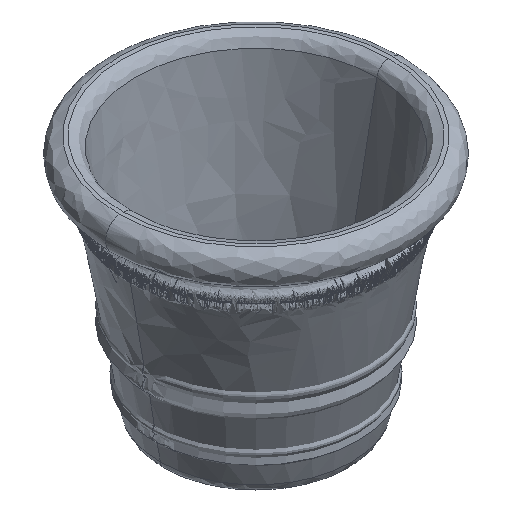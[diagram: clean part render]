
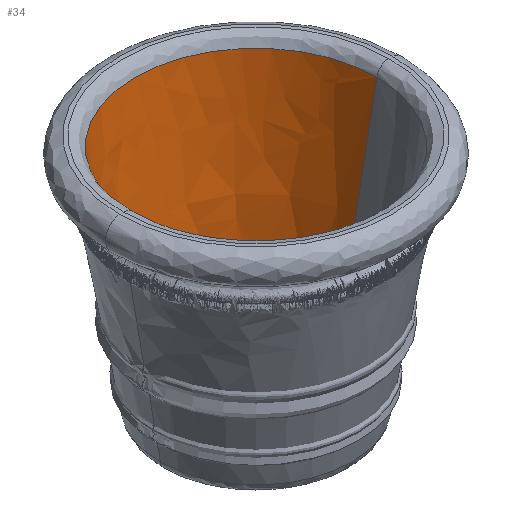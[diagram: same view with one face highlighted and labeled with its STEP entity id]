
A CAD part, isometric view. The second image highlights one B-rep face of the part: STEP entity #34.
In plain terms, the highlighted free-form (B-spline) face has degree [2, 1] with [5, 2] control points.
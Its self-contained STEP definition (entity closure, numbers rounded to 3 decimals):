
#34=ADVANCED_FACE('',(#56),#333,.T.);
#56=FACE_OUTER_BOUND('',#80,.T.);
#80=EDGE_LOOP('',(#156,#157,#158,#159));
#156=ORIENTED_EDGE('',*,*,#209,.T.);
#157=ORIENTED_EDGE('',*,*,#184,.T.);
#158=ORIENTED_EDGE('',*,*,#207,.F.);
#159=ORIENTED_EDGE('',*,*,#208,.F.);
#184=EDGE_CURVE('',#297,#295,#216,.T.);
#207=EDGE_CURVE('',#309,#295,#253,.T.);
#208=EDGE_CURVE('',#310,#309,#219,.T.);
#209=EDGE_CURVE('',#310,#297,#254,.T.);
#216=B_SPLINE_CURVE_WITH_KNOTS('',1,(#1511,#1512),.UNSPECIFIED.,.F.,.F.,
(2,2),(24.978,573.839),.UNSPECIFIED.);
#219=B_SPLINE_CURVE_WITH_KNOTS('',1,(#1650,#1651),.UNSPECIFIED.,.F.,.F.,
(2,2),(24.978,573.839),.UNSPECIFIED.);
#253=TRIMMED_CURVE($,#283,(#1648),(#1649),.T.,.CARTESIAN.);
#254=TRIMMED_CURVE($,#284,(#1653),(#1654),.T.,.CARTESIAN.);
#283=CIRCLE('',#453,190.682);
#284=CIRCLE('',#454,292.85);
#295=VERTEX_POINT('',#1383);
#297=VERTEX_POINT('',#1385);
#309=VERTEX_POINT('',#1397);
#310=VERTEX_POINT('',#1398);
#333=(
BOUNDED_SURFACE()
B_SPLINE_SURFACE(2,1,((#1337,#1338),(#1339,#1340),(#1341,#1342),(#1343,
#1344),(#1345,#1346)),.UNSPECIFIED.,.F.,.F.,.F.)
B_SPLINE_SURFACE_WITH_KNOTS((3,2,3),(2,2),(934.624,1401.936,
1869.248),(0.,573.839),.UNSPECIFIED.)
GEOMETRIC_REPRESENTATION_ITEM()
RATIONAL_B_SPLINE_SURFACE(((1.,1.),(0.707,0.707),
(1.,1.),(0.707,0.707),(1.,1.)))
REPRESENTATION_ITEM('')
SURFACE()
);
#453=AXIS2_PLACEMENT_3D($,#1647,#515,#516);
#454=AXIS2_PLACEMENT_3D($,#1652,#517,#518);
#515=DIRECTION('',(0.,0.,1.));
#516=DIRECTION('',(1.,0.,0.));
#517=DIRECTION('',(0.,0.,1.));
#518=DIRECTION('',(1.,0.,0.));
#1337=CARTESIAN_POINT('',(297.5,0.,595.));
#1338=CARTESIAN_POINT('',(190.682,0.,34.908));
#1339=CARTESIAN_POINT('',(297.5,297.5,595.));
#1340=CARTESIAN_POINT('',(190.682,190.682,34.908));
#1341=CARTESIAN_POINT('',(0.,297.5,595.));
#1342=CARTESIAN_POINT('',(0.,190.682,34.908));
#1343=CARTESIAN_POINT('',(-297.5,297.5,595.));
#1344=CARTESIAN_POINT('',(-190.682,190.682,34.908));
#1345=CARTESIAN_POINT('',(-297.5,0.,595.));
#1346=CARTESIAN_POINT('',(-190.682,0.,34.908));
#1383=CARTESIAN_POINT('',(-190.682,0.,34.908));
#1385=CARTESIAN_POINT('',(-292.85,0.,570.62));
#1397=CARTESIAN_POINT('',(190.682,0.,34.908));
#1398=CARTESIAN_POINT('',(292.85,0.,570.62));
#1511=CARTESIAN_POINT('',(-292.85,0.,570.62));
#1512=CARTESIAN_POINT('',(-190.682,0.,34.908));
#1647=CARTESIAN_POINT('',(0.,0.,34.908));
#1648=CARTESIAN_POINT('',(190.682,0.,34.908));
#1649=CARTESIAN_POINT('',(-190.682,0.,34.908));
#1650=CARTESIAN_POINT('',(292.85,0.,570.62));
#1651=CARTESIAN_POINT('',(190.682,0.,34.908));
#1652=CARTESIAN_POINT('',(0.,0.,570.62));
#1653=CARTESIAN_POINT('',(292.85,0.,570.62));
#1654=CARTESIAN_POINT('',(-292.85,0.,570.62));
